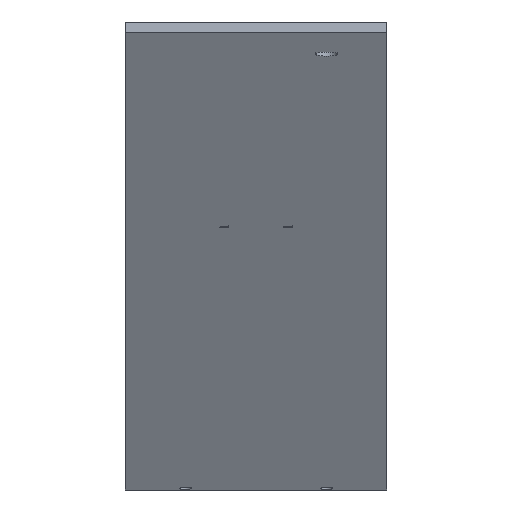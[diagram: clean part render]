
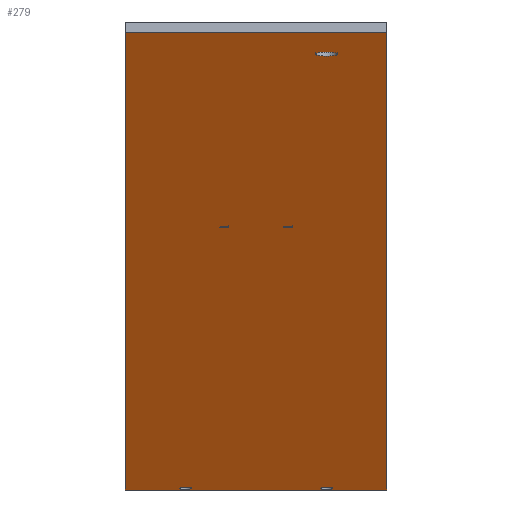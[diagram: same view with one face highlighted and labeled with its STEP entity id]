
A CAD part, top view. The second image highlights one B-rep face of the part: STEP entity #279.
In plain terms, the highlighted planar face has unit normal (0, -0.985, 0.174).
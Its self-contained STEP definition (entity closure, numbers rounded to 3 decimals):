
#37=CARTESIAN_POINT('',(-284.5,-418.06,258.821));
#38=VERTEX_POINT('',#37);
#45=CARTESIAN_POINT('',(-432.5,-418.06,258.821));
#46=VERTEX_POINT('',#45);
#47=CARTESIAN_POINT('',(-432.5,-418.06,258.821));
#48=DIRECTION('',(1.0,0.0,0.0));
#49=VECTOR('',#48,1.);
#50=LINE('',#47,#49);
#51=EDGE_CURVE('',#46,#38,#50,.T.);
#75=CARTESIAN_POINT('',(-284.5,-161.408,1714.367));
#76=VERTEX_POINT('',#75);
#83=CARTESIAN_POINT('',(-284.5,-418.06,258.821));
#84=DIRECTION('',(0.,0.174,0.985));
#85=VECTOR('',#84,1.);
#86=LINE('',#83,#85);
#87=EDGE_CURVE('',#38,#76,#86,.T.);
#106=CARTESIAN_POINT('',(-432.5,-161.408,1714.367));
#107=VERTEX_POINT('',#106);
#114=CARTESIAN_POINT('',(-284.5,-161.408,1714.367));
#115=DIRECTION('',(-1.0,0.,0.));
#116=VECTOR('',#115,1.);
#117=LINE('',#114,#116);
#118=EDGE_CURVE('',#76,#107,#117,.T.);
#136=CARTESIAN_POINT('',(-432.5,-161.408,1714.367));
#137=DIRECTION('',(0.,-0.174,-0.985));
#138=VECTOR('',#137,1.);
#139=LINE('',#136,#138);
#140=EDGE_CURVE('',#107,#46,#139,.T.);
#213=CARTESIAN_POINT('',(-432.5,-418.06,258.821));
#214=DIRECTION('',(0.0,-0.985,0.174));
#215=DIRECTION('',(1.0,0.0,0.0));
#216=AXIS2_PLACEMENT_3D('',#213,#214,#215);
#217=PLANE('',#216);
#218=ORIENTED_EDGE('',*,*,#51,.T.);
#219=ORIENTED_EDGE('',*,*,#87,.T.);
#220=ORIENTED_EDGE('',*,*,#118,.T.);
#221=ORIENTED_EDGE('',*,*,#140,.T.);
#222=EDGE_LOOP('',(#218,#219,#220,#221));
#223=FACE_OUTER_BOUND('',#222,.T.);
#224=CARTESIAN_POINT('',(-395.2,-417.192,263.745));
#225=VERTEX_POINT('',#224);
#226=CARTESIAN_POINT('',(-398.5,-417.192,263.745));
#227=DIRECTION('',(0.0,-0.985,0.174));
#228=DIRECTION('',(1.0,0.0,0.0));
#229=AXIS2_PLACEMENT_3D('',#226,#227,#228);
#230=CIRCLE('',#229,3.3);
#231=EDGE_CURVE('',#225,#225,#230,.T.);
#232=ORIENTED_EDGE('',*,*,#231,.F.);
#233=EDGE_LOOP('',(#232));
#234=FACE_BOUND('',#233,.T.);
#235=CARTESIAN_POINT('',(-315.2,-417.192,263.745));
#236=VERTEX_POINT('',#235);
#237=CARTESIAN_POINT('',(-318.5,-417.192,263.745));
#238=DIRECTION('',(0.0,-0.985,0.174));
#239=DIRECTION('',(1.0,0.0,0.0));
#240=AXIS2_PLACEMENT_3D('',#237,#238,#239);
#241=CIRCLE('',#240,3.3);
#242=EDGE_CURVE('',#236,#236,#241,.T.);
#243=ORIENTED_EDGE('',*,*,#242,.F.);
#244=EDGE_LOOP('',(#243));
#245=FACE_BOUND('',#244,.T.);
#246=CARTESIAN_POINT('',(-312.2,-173.564,1645.43));
#247=VERTEX_POINT('',#246);
#248=CARTESIAN_POINT('',(-318.5,-173.564,1645.43));
#249=DIRECTION('',(0.0,-0.985,0.174));
#250=DIRECTION('',(1.0,0.0,0.0));
#251=AXIS2_PLACEMENT_3D('',#248,#249,#250);
#252=CIRCLE('',#251,6.3);
#253=EDGE_CURVE('',#247,#247,#252,.T.);
#254=ORIENTED_EDGE('',*,*,#253,.F.);
#255=EDGE_LOOP('',(#254));
#256=FACE_BOUND('',#255,.T.);
#257=CARTESIAN_POINT('',(-374.,-270.633,1094.923));
#258=VERTEX_POINT('',#257);
#259=CARTESIAN_POINT('',(-376.5,-270.633,1094.923));
#260=DIRECTION('',(0.0,-0.985,0.174));
#261=DIRECTION('',(1.0,0.0,0.0));
#262=AXIS2_PLACEMENT_3D('',#259,#260,#261);
#263=CIRCLE('',#262,2.5);
#264=EDGE_CURVE('',#258,#258,#263,.T.);
#265=ORIENTED_EDGE('',*,*,#264,.F.);
#266=EDGE_LOOP('',(#265));
#267=FACE_BOUND('',#266,.T.);
#268=CARTESIAN_POINT('',(-338.,-270.633,1094.923));
#269=VERTEX_POINT('',#268);
#270=CARTESIAN_POINT('',(-340.5,-270.633,1094.923));
#271=DIRECTION('',(0.0,-0.985,0.174));
#272=DIRECTION('',(1.0,0.0,0.0));
#273=AXIS2_PLACEMENT_3D('',#270,#271,#272);
#274=CIRCLE('',#273,2.5);
#275=EDGE_CURVE('',#269,#269,#274,.T.);
#276=ORIENTED_EDGE('',*,*,#275,.F.);
#277=EDGE_LOOP('',(#276));
#278=FACE_BOUND('',#277,.T.);
#279=ADVANCED_FACE('',(#223,#234,#245,#256,#267,#278),#217,.T.);
